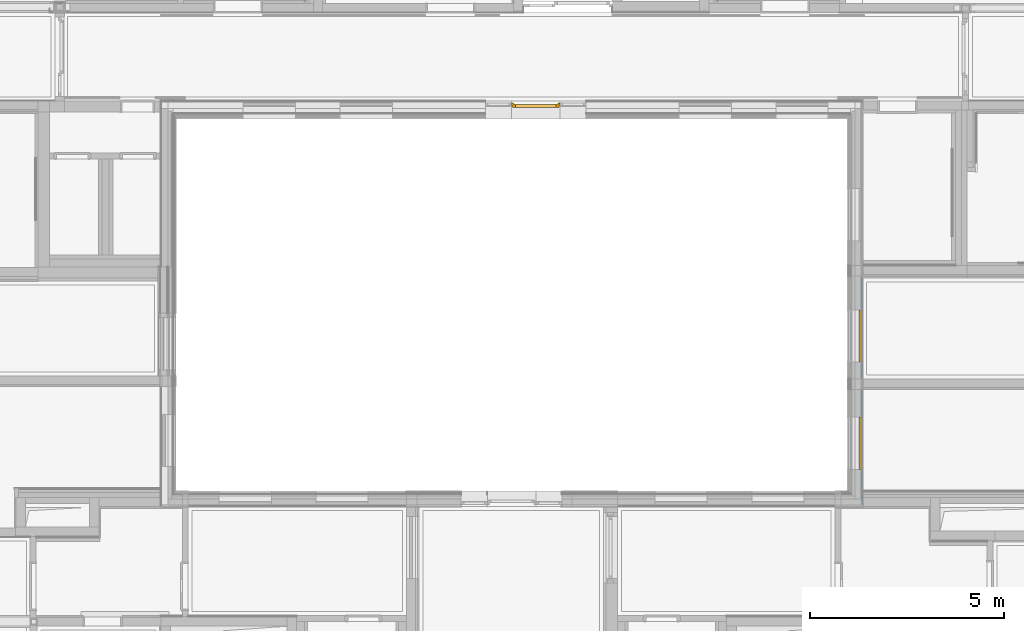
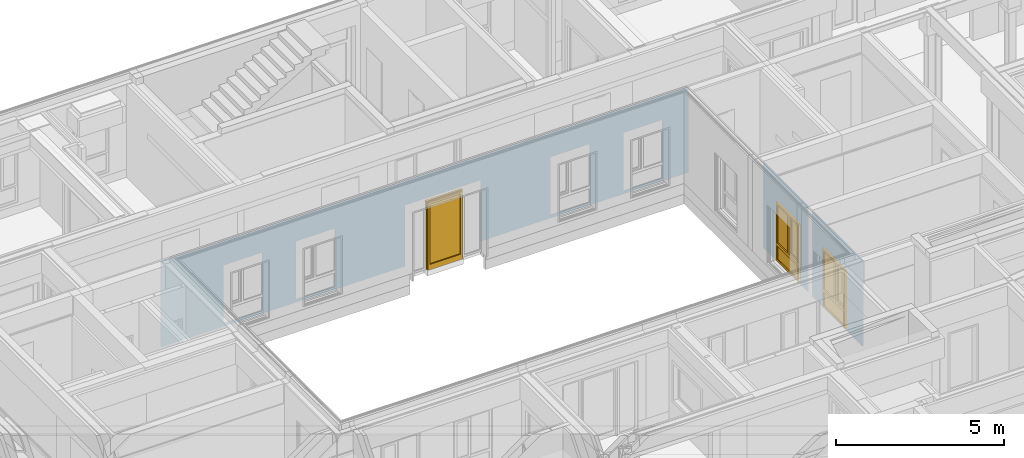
# One storey, part 105 of 207: 2 windows, 1 door, 9 openings, plus 3 elements that do not belong to this part.
"""IFC4 building model written with IfcOpenShell, lengths in metres."""

from ifc_helpers import new_model, entity, si_unit, converted_unit, derived_unit, frame, frame_2d, origin, origin_with_axes, place, context, subcontext, project, spatial, polyline, rectangle, outline, extrude, closed_shell, open_shell, surface_model, source, transform, mapped, material, type_object, element, fill, save


model = new_model("IFC4")

# Units and contexts
model_context = context("Model", 3, precision=1e-05, world=origin())
body_context = subcontext(model_context, "Body", "Model", "MODEL_VIEW")
ifc_project = project(units=[si_unit("LENGTHUNIT", "METRE"), si_unit("AREAUNIT", "SQUARE_METRE"), si_unit("VOLUMEUNIT", "CUBIC_METRE"), si_unit("MASSUNIT", "GRAM", prefix="KILO"), converted_unit("PLANEANGLEUNIT", "DEGREE", entity("IfcPlaneAngleMeasure", 0.0174532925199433), si_unit("PLANEANGLEUNIT", "RADIAN"), dimensions=[0, 0, 0, 0, 0, 0, 0]), derived_unit("THERMALTRANSMITTANCEUNIT", [(si_unit("POWERUNIT", "WATT"), 1), (si_unit("THERMODYNAMICTEMPERATUREUNIT", "KELVIN"), -1), (si_unit("LENGTHUNIT", "METRE"), -2)]), derived_unit("VOLUMETRICFLOWRATEUNIT", [(si_unit("LENGTHUNIT", "METRE"), 3), (converted_unit("TIMEUNIT", "hour", entity("IfcTimeMeasure", 3600.0), si_unit("TIMEUNIT", "SECOND"), dimensions=[0, 0, 1, 0, 0, 0, 0]), -1), (si_unit("LENGTHUNIT", "METRE"), -1)])], contexts=[model_context])

# Site, building, storey
site_placement = place(None, origin())
site = spatial("IfcSite", under=ifc_project, at=site_placement, Name="Psychiatrie Neubau Wunstorf", CompositionType="ELEMENT")
building_placement = place(site_placement, origin())
building = spatial("IfcBuilding", under=site, at=building_placement, Name="Neubau H2 Stationsgebäude", CompositionType="ELEMENT")
storey_placement = place(building_placement, frame((0.0, 0.0, -0.2)))
storey = spatial("IfcBuildingStorey", under=building, at=storey_placement, Name="H2 Ebene 0", CompositionType="ELEMENT", Elevation=-0.2)

# Wall, opening, window
ifc_material_1 = material(Name="WA-LB")
wall_1_placement = place(storey_placement, frame((62.061000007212, 10.1499996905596, 0.5), z_axis=(0.0, 0.0, 1.0), x_axis=(2.43546947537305e-15, 1.0, 0.0)))
wall_1 = element("IfcWall", 1, at=wall_1_placement, inside=storey, material=ifc_material_1, context=body_context, shape_type="SweptSolid", body=[
    extrude(rectangle(XDim=2.98749694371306, YDim=0.036, at=frame_2d((1.49374847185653, 0.018), x_axis=(1.0, 0.0))), origin_with_axes(), (0.0, 0.0, 1.0), 3.1),
])
opening_1_placement = place(wall_1_placement, frame((0.925, 0.0, 0.1), z_axis=(-3.15796771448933e-15, 1.0, 0.0), x_axis=(0.0, 0.0, 1.0)))
opening_1 = element("IfcOpeningElement", 2, at=opening_1_placement, cuts=wall_1, Name="Fensteröffnung", ObjectType="Opening", context=body_context, shape_type="SweptSolid", body=[
    extrude(outline(polyline([(2.12, 1.35), (2.12, 0.0), (0.0, 0.0), (0.0, 1.35), (2.12, 1.35)])), origin_with_axes(), (0.0, 0.0, 1.0), 0.036),
])
shared_shape_1 = source(origin_with_axes(), body_context, "Body", "SurfaceModel", [
    surface_model("IfcShellBasedSurfaceModel", [(0.0, 0.0, 2.12), (0.0699999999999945, 0.0, 2.12), (0.0699999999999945, 0.0, 0.0), (0.0, 0.0, 0.0), (0.0, 0.0699999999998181, 0.0), (0.0699999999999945, 0.0699999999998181, 0.0), (0.0699999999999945, 0.0699999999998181, 2.12), (0.0, 0.0699999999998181, 2.12)], [closed_shell([[[0, 1, 2, 3]], [[4, 5, 6, 7]], [[3, 4, 7, 0]], [[2, 5, 4, 3]], [[1, 6, 5, 2]], [[0, 7, 6, 1]]], orient=[[False], [False], [False], [False], [False], [False]])]),
    surface_model("IfcShellBasedSurfaceModel", [(1.28, 0.0, 2.12), (1.35, 0.0, 2.12), (1.35, 0.0, 0.0), (1.28, 0.0, 0.0), (1.28, 0.0699999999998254, 0.0), (1.35, 0.0699999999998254, 0.0), (1.35, 0.0699999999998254, 2.12), (1.28, 0.0699999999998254, 2.12)], [closed_shell([[[0, 1, 2, 3]], [[4, 5, 6, 7]], [[3, 4, 7, 0]], [[2, 5, 4, 3]], [[1, 6, 5, 2]], [[0, 7, 6, 1]]], orient=[[False], [False], [False], [False], [False], [False]])]),
    surface_model("IfcShellBasedSurfaceModel", [(0.0699999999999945, 0.0, 0.07), (1.28, 0.0, 0.07), (1.28, 0.0, 0.0), (0.0699999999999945, 0.0, 0.0), (0.0699999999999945, 0.0699999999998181, 0.0), (1.28, 0.0699999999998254, 0.0), (1.28, 0.0699999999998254, 0.07), (0.0699999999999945, 0.0699999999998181, 0.07)], [closed_shell([[[0, 1, 2, 3]], [[4, 5, 6, 7]], [[3, 4, 7, 0]], [[2, 5, 4, 3]], [[1, 6, 5, 2]], [[0, 7, 6, 1]]], orient=[[False], [False], [False], [False], [False], [False]])]),
    surface_model("IfcShellBasedSurfaceModel", [(0.0699999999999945, 0.0, 2.12), (1.28, 0.0, 2.12), (1.28, 0.0, 2.05), (0.0699999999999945, 0.0, 2.05), (0.0699999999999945, 0.0699999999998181, 2.05), (1.28, 0.0699999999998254, 2.05), (1.28, 0.0699999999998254, 2.12), (0.0699999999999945, 0.0699999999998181, 2.12)], [closed_shell([[[0, 1, 2, 3]], [[4, 5, 6, 7]], [[3, 4, 7, 0]], [[2, 5, 4, 3]], [[1, 6, 5, 2]], [[0, 7, 6, 1]]], orient=[[False], [False], [False], [False], [False], [False]])]),
    surface_model("IfcShellBasedSurfaceModel", [(0.0699999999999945, 0.0, 0.67), (1.28, 0.0, 0.67), (1.28, 0.0, 0.57), (0.0699999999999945, 0.0, 0.57), (0.0699999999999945, 0.0699999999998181, 0.57), (1.28, 0.0699999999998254, 0.57), (1.28, 0.0699999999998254, 0.67), (0.0699999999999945, 0.0699999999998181, 0.67)], [closed_shell([[[0, 1, 2, 3]], [[4, 5, 6, 7]], [[3, 4, 7, 0]], [[2, 5, 4, 3]], [[1, 6, 5, 2]], [[0, 7, 6, 1]]], orient=[[False], [False], [False], [False], [False], [False]])]),
    surface_model("IfcShellBasedSurfaceModel", [(0.0699999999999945, 0.0349999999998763, 0.07), (0.0699999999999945, 0.0349999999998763, 0.57), (1.28, 0.0349999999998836, 0.57), (1.28, 0.0349999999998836, 0.07)], [open_shell([[[0, 1, 2, 3]]], orient=[[False]])]),
    surface_model("IfcShellBasedSurfaceModel", [(0.569999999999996, 0.0, 2.05), (0.639999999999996, 0.0, 2.05), (0.639999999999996, 0.0, 0.67), (0.569999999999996, 0.0, 0.67), (0.569999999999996, 0.0699999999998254, 0.67), (0.639999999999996, 0.0699999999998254, 0.67), (0.639999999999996, 0.0699999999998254, 2.05), (0.569999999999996, 0.0699999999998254, 2.05)], [closed_shell([[[0, 1, 2, 3]], [[4, 5, 6, 7]], [[3, 4, 7, 0]], [[2, 5, 4, 3]], [[1, 6, 5, 2]], [[0, 7, 6, 1]]], orient=[[False], [False], [False], [False], [False], [False]])]),
    surface_model("IfcShellBasedSurfaceModel", [(0.0499999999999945, -0.0499999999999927, 2.07), (0.119999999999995, -0.0499999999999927, 2.07), (0.119999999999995, -0.0499999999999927, 0.65), (0.0499999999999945, -0.0499999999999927, 0.65), (0.0499999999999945, 0.0199999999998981, 0.65), (0.119999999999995, 0.0199999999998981, 0.65), (0.119999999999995, 0.0199999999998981, 2.07), (0.0499999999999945, 0.0199999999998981, 2.07)], [closed_shell([[[0, 1, 2, 3]], [[4, 5, 6, 7]], [[3, 4, 7, 0]], [[2, 5, 4, 3]], [[1, 6, 5, 2]], [[0, 7, 6, 1]]], orient=[[False], [False], [False], [False], [False], [False]])]),
    surface_model("IfcShellBasedSurfaceModel", [(0.519999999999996, -0.0499999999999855, 2.07), (0.589999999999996, -0.0499999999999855, 2.07), (0.589999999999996, -0.0499999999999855, 0.65), (0.519999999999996, -0.0499999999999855, 0.65), (0.519999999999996, 0.0199999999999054, 0.65), (0.589999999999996, 0.0199999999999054, 0.65), (0.589999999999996, 0.0199999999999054, 2.07), (0.519999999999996, 0.0199999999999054, 2.07)], [closed_shell([[[0, 1, 2, 3]], [[4, 5, 6, 7]], [[3, 4, 7, 0]], [[2, 5, 4, 3]], [[1, 6, 5, 2]], [[0, 7, 6, 1]]], orient=[[False], [False], [False], [False], [False], [False]])]),
    surface_model("IfcShellBasedSurfaceModel", [(0.119999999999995, -0.0499999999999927, 0.72), (0.519999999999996, -0.0499999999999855, 0.72), (0.519999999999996, -0.0499999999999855, 0.65), (0.119999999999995, -0.0499999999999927, 0.65), (0.119999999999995, 0.0199999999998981, 0.65), (0.519999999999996, 0.0199999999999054, 0.65), (0.519999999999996, 0.0199999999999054, 0.72), (0.119999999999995, 0.0199999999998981, 0.72)], [closed_shell([[[0, 1, 2, 3]], [[4, 5, 6, 7]], [[3, 4, 7, 0]], [[2, 5, 4, 3]], [[1, 6, 5, 2]], [[0, 7, 6, 1]]], orient=[[False], [False], [False], [False], [False], [False]])]),
    surface_model("IfcShellBasedSurfaceModel", [(0.119999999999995, -0.0499999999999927, 2.07), (0.519999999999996, -0.0499999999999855, 2.07), (0.519999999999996, -0.0499999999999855, 2.0), (0.119999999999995, -0.0499999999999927, 2.0), (0.119999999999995, 0.0199999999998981, 2.0), (0.519999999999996, 0.0199999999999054, 2.0), (0.519999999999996, 0.0199999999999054, 2.07), (0.119999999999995, 0.0199999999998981, 2.07)], [closed_shell([[[0, 1, 2, 3]], [[4, 5, 6, 7]], [[3, 4, 7, 0]], [[2, 5, 4, 3]], [[1, 6, 5, 2]], [[0, 7, 6, 1]]], orient=[[False], [False], [False], [False], [False], [False]])]),
    surface_model("IfcShellBasedSurfaceModel", [(0.639999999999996, 0.0349999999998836, 0.67), (0.639999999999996, 0.0349999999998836, 2.05), (1.28, 0.0349999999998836, 2.05), (1.28, 0.0349999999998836, 0.67)], [open_shell([[[0, 1, 2, 3]]], orient=[[False]])]),
    surface_model("IfcShellBasedSurfaceModel", [(0.119999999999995, -0.0150000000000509, 0.72), (0.119999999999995, -0.0150000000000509, 2.0), (0.519999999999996, -0.0150000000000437, 2.0), (0.519999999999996, -0.0150000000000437, 0.72)], [open_shell([[[0, 1, 2, 3]]], orient=[[False]])]),
])
window_1_placement = place(opening_1_placement, frame((0.0, 0.0, 0.03), z_axis=(1.0, 0.0, 0.0), x_axis=(0.0, 1.0, -6.11209647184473e-15)))
window_1 = element("IfcWindow", 3, at=window_1_placement, inside=storey, Name="Fenster", OverallHeight=2.12, OverallWidth=1.35, PartitioningType="USERDEFINED", PredefinedType="WINDOW", context=body_context, shape_type="MappedRepresentation", body=[
    mapped(shared_shape_1, transform((0.0, 0.0, 0.0), x_axis=(1.0, 0.0, 0.0), y_axis=(0.0, 1.0, 0.0), z_axis=(0.0, 0.0, 1.0), scale=1.0)),
])
fill(opening_1, window_1)

ifc_material_2 = material(Name="WA-LB")
wall_2_placement = place(storey_placement, frame((62.0610000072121, 13.4094966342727, 0.5), z_axis=(0.0, 0.0, 1.0), x_axis=(0.0, 1.0, 0.0)))
wall_2 = element("IfcWall", 4, at=wall_2_placement, inside=storey, material=ifc_material_2, context=body_context, shape_type="SweptSolid", body=[
    extrude(rectangle(XDim=2.65450336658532, YDim=0.036, at=frame_2d((1.32725168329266, 0.018), x_axis=(1.0, 0.0))), origin_with_axes(), (0.0, 0.0, 1.0), 3.1),
])
opening_2_placement = place(wall_2_placement, frame((0.434501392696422, 0.0, 0.1), z_axis=(0.0, 1.0, 0.0), x_axis=(0.0, 0.0, 1.0)))
opening_2 = element("IfcOpeningElement", 5, at=opening_2_placement, cuts=wall_2, Name="Fensteröffnung", ObjectType="Opening", context=body_context, shape_type="SweptSolid", body=[
    extrude(outline(polyline([(2.12, 1.35), (2.12, 0.0), (0.0, 0.0), (0.0, 1.35), (2.12, 1.35)])), origin_with_axes(), (0.0, 0.0, 1.0), 0.036),
])
shared_shape_2 = source(origin_with_axes(), body_context, "Body", "SurfaceModel", [
    surface_model("IfcShellBasedSurfaceModel", [(0.0, 0.0, 2.12), (0.0699999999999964, 0.0, 2.12), (0.0699999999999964, 0.0, 0.0), (0.0, 0.0, 0.0), (0.0, 0.0699999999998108, 0.0), (0.0699999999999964, 0.0699999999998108, 0.0), (0.0699999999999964, 0.0699999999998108, 2.12), (0.0, 0.0699999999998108, 2.12)], [closed_shell([[[0, 1, 2, 3]], [[4, 5, 6, 7]], [[3, 4, 7, 0]], [[2, 5, 4, 3]], [[1, 6, 5, 2]], [[0, 7, 6, 1]]], orient=[[False], [False], [False], [False], [False], [False]])]),
    surface_model("IfcShellBasedSurfaceModel", [(1.28, 0.0, 2.12), (1.35, 0.0, 2.12), (1.35, 0.0, 0.0), (1.28, 0.0, 0.0), (1.28, 0.0699999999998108, 0.0), (1.35, 0.0699999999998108, 0.0), (1.35, 0.0699999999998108, 2.12), (1.28, 0.0699999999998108, 2.12)], [closed_shell([[[0, 1, 2, 3]], [[4, 5, 6, 7]], [[3, 4, 7, 0]], [[2, 5, 4, 3]], [[1, 6, 5, 2]], [[0, 7, 6, 1]]], orient=[[False], [False], [False], [False], [False], [False]])]),
    surface_model("IfcShellBasedSurfaceModel", [(0.0699999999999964, 0.0, 0.07), (1.28, 0.0, 0.07), (1.28, 0.0, 0.0), (0.0699999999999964, 0.0, 0.0), (0.0699999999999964, 0.0699999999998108, 0.0), (1.28, 0.0699999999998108, 0.0), (1.28, 0.0699999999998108, 0.07), (0.0699999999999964, 0.0699999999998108, 0.07)], [closed_shell([[[0, 1, 2, 3]], [[4, 5, 6, 7]], [[3, 4, 7, 0]], [[2, 5, 4, 3]], [[1, 6, 5, 2]], [[0, 7, 6, 1]]], orient=[[False], [False], [False], [False], [False], [False]])]),
    surface_model("IfcShellBasedSurfaceModel", [(0.0699999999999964, 0.0, 2.12), (1.28, 0.0, 2.12), (1.28, 0.0, 2.05), (0.0699999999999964, 0.0, 2.05), (0.0699999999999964, 0.0699999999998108, 2.05), (1.28, 0.0699999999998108, 2.05), (1.28, 0.0699999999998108, 2.12), (0.0699999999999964, 0.0699999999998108, 2.12)], [closed_shell([[[0, 1, 2, 3]], [[4, 5, 6, 7]], [[3, 4, 7, 0]], [[2, 5, 4, 3]], [[1, 6, 5, 2]], [[0, 7, 6, 1]]], orient=[[False], [False], [False], [False], [False], [False]])]),
    surface_model("IfcShellBasedSurfaceModel", [(0.0699999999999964, 0.0, 0.67), (1.28, 0.0, 0.67), (1.28, 0.0, 0.57), (0.0699999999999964, 0.0, 0.57), (0.0699999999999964, 0.0699999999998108, 0.57), (1.28, 0.0699999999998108, 0.57), (1.28, 0.0699999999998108, 0.67), (0.0699999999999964, 0.0699999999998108, 0.67)], [closed_shell([[[0, 1, 2, 3]], [[4, 5, 6, 7]], [[3, 4, 7, 0]], [[2, 5, 4, 3]], [[1, 6, 5, 2]], [[0, 7, 6, 1]]], orient=[[False], [False], [False], [False], [False], [False]])]),
    surface_model("IfcShellBasedSurfaceModel", [(0.0699999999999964, 0.034999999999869, 0.07), (0.0699999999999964, 0.034999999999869, 0.57), (1.28, 0.034999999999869, 0.57), (1.28, 0.034999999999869, 0.07)], [open_shell([[[0, 1, 2, 3]]], orient=[[False]])]),
    surface_model("IfcShellBasedSurfaceModel", [(0.569999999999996, 0.0, 2.05), (0.639999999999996, 0.0, 2.05), (0.639999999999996, 0.0, 0.67), (0.569999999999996, 0.0, 0.67), (0.569999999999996, 0.0699999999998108, 0.67), (0.639999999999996, 0.0699999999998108, 0.67), (0.639999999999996, 0.0699999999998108, 2.05), (0.569999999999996, 0.0699999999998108, 2.05)], [closed_shell([[[0, 1, 2, 3]], [[4, 5, 6, 7]], [[3, 4, 7, 0]], [[2, 5, 4, 3]], [[1, 6, 5, 2]], [[0, 7, 6, 1]]], orient=[[False], [False], [False], [False], [False], [False]])]),
    surface_model("IfcShellBasedSurfaceModel", [(0.0499999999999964, -0.0499999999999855, 2.07), (0.119999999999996, -0.0499999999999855, 2.07), (0.119999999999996, -0.0499999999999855, 0.65), (0.0499999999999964, -0.0499999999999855, 0.65), (0.0499999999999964, 0.0199999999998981, 0.65), (0.119999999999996, 0.0199999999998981, 0.65), (0.119999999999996, 0.0199999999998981, 2.07), (0.0499999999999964, 0.0199999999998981, 2.07)], [closed_shell([[[0, 1, 2, 3]], [[4, 5, 6, 7]], [[3, 4, 7, 0]], [[2, 5, 4, 3]], [[1, 6, 5, 2]], [[0, 7, 6, 1]]], orient=[[False], [False], [False], [False], [False], [False]])]),
    surface_model("IfcShellBasedSurfaceModel", [(0.519999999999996, -0.0499999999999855, 2.07), (0.589999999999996, -0.0499999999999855, 2.07), (0.589999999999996, -0.0499999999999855, 0.65), (0.519999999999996, -0.0499999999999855, 0.65), (0.519999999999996, 0.0199999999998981, 0.65), (0.589999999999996, 0.0199999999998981, 0.65), (0.589999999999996, 0.0199999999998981, 2.07), (0.519999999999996, 0.0199999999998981, 2.07)], [closed_shell([[[0, 1, 2, 3]], [[4, 5, 6, 7]], [[3, 4, 7, 0]], [[2, 5, 4, 3]], [[1, 6, 5, 2]], [[0, 7, 6, 1]]], orient=[[False], [False], [False], [False], [False], [False]])]),
    surface_model("IfcShellBasedSurfaceModel", [(0.119999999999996, -0.0499999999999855, 0.72), (0.519999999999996, -0.0499999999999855, 0.72), (0.519999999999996, -0.0499999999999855, 0.65), (0.119999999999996, -0.0499999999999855, 0.65), (0.119999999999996, 0.0199999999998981, 0.65), (0.519999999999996, 0.0199999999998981, 0.65), (0.519999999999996, 0.0199999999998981, 0.72), (0.119999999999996, 0.0199999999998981, 0.72)], [closed_shell([[[0, 1, 2, 3]], [[4, 5, 6, 7]], [[3, 4, 7, 0]], [[2, 5, 4, 3]], [[1, 6, 5, 2]], [[0, 7, 6, 1]]], orient=[[False], [False], [False], [False], [False], [False]])]),
    surface_model("IfcShellBasedSurfaceModel", [(0.119999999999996, -0.0499999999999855, 2.07), (0.519999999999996, -0.0499999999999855, 2.07), (0.519999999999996, -0.0499999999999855, 2.0), (0.119999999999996, -0.0499999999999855, 2.0), (0.119999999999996, 0.0199999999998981, 2.0), (0.519999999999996, 0.0199999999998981, 2.0), (0.519999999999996, 0.0199999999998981, 2.07), (0.119999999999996, 0.0199999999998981, 2.07)], [closed_shell([[[0, 1, 2, 3]], [[4, 5, 6, 7]], [[3, 4, 7, 0]], [[2, 5, 4, 3]], [[1, 6, 5, 2]], [[0, 7, 6, 1]]], orient=[[False], [False], [False], [False], [False], [False]])]),
    surface_model("IfcShellBasedSurfaceModel", [(0.639999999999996, 0.034999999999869, 0.67), (0.639999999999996, 0.034999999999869, 2.05), (1.28, 0.034999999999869, 2.05), (1.28, 0.034999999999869, 0.67)], [open_shell([[[0, 1, 2, 3]]], orient=[[False]])]),
    surface_model("IfcShellBasedSurfaceModel", [(0.119999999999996, -0.0150000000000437, 0.72), (0.119999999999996, -0.0150000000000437, 2.0), (0.519999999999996, -0.0150000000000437, 2.0), (0.519999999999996, -0.0150000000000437, 0.72)], [open_shell([[[0, 1, 2, 3]]], orient=[[False]])]),
])
window_2_placement = place(opening_2_placement, frame((0.0, 0.0, 0.03), z_axis=(1.0, 0.0, 0.0), x_axis=(0.0, 1.0, 0.0)))
window_2 = element("IfcWindow", 6, at=window_2_placement, inside=storey, Name="Fenster", OverallHeight=2.12, OverallWidth=1.35, PartitioningType="USERDEFINED", PredefinedType="WINDOW", context=body_context, shape_type="MappedRepresentation", body=[
    mapped(shared_shape_2, transform((0.0, 0.0, 0.0), x_axis=(1.0, 0.0, 0.0), y_axis=(0.0, 1.0, 0.0), z_axis=(0.0, 0.0, 1.0), scale=1.0)),
])
fill(opening_2, window_2)

# Wall, openings, door
ifc_material_3 = material(Name="WA-LB")
wall_3_placement = place(storey_placement, frame((62.0610000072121, 20.5859980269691, 0.5), z_axis=(0.0, 0.0, 1.0), x_axis=(-1.0, 0.0, 0.0)))
wall_3 = element("IfcWall", 7, at=wall_3_placement, inside=storey, material=ifc_material_3, context=body_context, shape_type="SweptSolid", body=[
    extrude(rectangle(XDim=18.1220000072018, YDim=0.0359999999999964, at=frame_2d((9.06100000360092, 0.0179999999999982), x_axis=(1.0, 0.0))), origin_with_axes(), (0.0, 0.0, 1.0), 3.1),
])
opening_3_placement = place(wall_3_placement, frame((7.81338818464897, 0.0360000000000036, -0.3), z_axis=(0.0, -1.0, 0.0), x_axis=(0.0, 0.0, 1.0)))
element("IfcOpeningElement", 8, at=opening_3_placement, cuts=wall_3, Name="Fensteröffnung", ObjectType="Opening", context=body_context, shape_type="SweptSolid", body=[
    extrude(outline(polyline([(2.52, 0.675), (2.52, 0.0), (0.0, 0.0), (0.0, 0.675), (2.52, 0.675)])), origin_with_axes(), (0.0, 0.0, 1.0), 0.0360000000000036),
])
opening_4_placement = place(wall_3_placement, frame((15.9883882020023, 0.0359999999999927, 0.1), z_axis=(0.0, -1.0, 0.0), x_axis=(0.0, 0.0, 1.0)))
element("IfcOpeningElement", 9, at=opening_4_placement, cuts=wall_3, Name="Fensteröffnung", ObjectType="Opening", context=body_context, shape_type="SweptSolid", body=[
    extrude(outline(polyline([(2.12, 1.35), (2.12, 0.0), (0.0, 0.0), (0.0, 1.35), (2.12, 1.35)])), origin_with_axes(), (0.0, 0.0, 1.0), 0.0360000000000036),
])
opening_5_placement = place(wall_3_placement, frame((13.488388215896, 0.036, 0.1), z_axis=(0.0, -1.0, 0.0), x_axis=(0.0, 0.0, 1.0)))
element("IfcOpeningElement", 10, at=opening_5_placement, cuts=wall_3, Name="Fensteröffnung", ObjectType="Opening", context=body_context, shape_type="SweptSolid", body=[
    extrude(outline(polyline([(2.12, 1.35), (2.12, 0.0), (0.0, 0.0), (0.0, 1.35), (2.12, 1.35)])), origin_with_axes(), (0.0, 0.0, 1.0), 0.036),
])
opening_6_placement = place(wall_3_placement, frame((4.738388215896, 0.0360000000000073, 0.1), z_axis=(0.0, -1.0, 0.0), x_axis=(0.0, 0.0, 1.0)))
element("IfcOpeningElement", 11, at=opening_6_placement, cuts=wall_3, Name="Fensteröffnung", ObjectType="Opening", context=body_context, shape_type="SweptSolid", body=[
    extrude(outline(polyline([(2.12, 1.35), (2.12, 0.0), (0.0, 0.0), (0.0, 1.35), (2.12, 1.35)])), origin_with_axes(), (0.0, 0.0, 1.0), 0.0360000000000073),
])
opening_7_placement = place(wall_3_placement, frame((2.238388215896, 0.0360000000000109, 0.1), z_axis=(0.0, -1.0, 0.0), x_axis=(0.0, 0.0, 1.0)))
element("IfcOpeningElement", 12, at=opening_7_placement, cuts=wall_3, Name="Fensteröffnung", ObjectType="Opening", context=body_context, shape_type="SweptSolid", body=[
    extrude(outline(polyline([(2.12, 1.35), (2.12, 0.0), (0.0, 0.0), (0.0, 1.35), (2.12, 1.35)])), origin_with_axes(), (0.0, 0.0, 1.0), 0.0360000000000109),
])
opening_8_placement = place(wall_3_placement, frame((9.063388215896, 0.0360000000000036, -0.5), z_axis=(0.0, -1.0, 0.0), x_axis=(0.0, 0.0, 1.0)))
opening_8 = element("IfcOpeningElement", 13, at=opening_8_placement, cuts=wall_3, Name="Türöffnung", ObjectType="Opening", context=body_context, shape_type="SweptSolid", body=[
    extrude(outline(polyline([(2.72, 1.25), (2.72, 0.0), (0.0, 0.0), (0.0, 1.25), (2.72, 1.25)])), origin_with_axes(), (0.0, 0.0, 1.0), 0.0360000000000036),
])
opening_9_placement = place(wall_3_placement, frame((9.738388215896, 0.0360000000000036, -0.3), z_axis=(0.0, -1.0, 0.0), x_axis=(0.0, 0.0, 1.0)))
element("IfcOpeningElement", 14, at=opening_9_placement, cuts=wall_3, Name="Fensteröffnung", ObjectType="Opening", context=body_context, shape_type="SweptSolid", body=[
    extrude(outline(polyline([(2.52, 0.675), (2.52, 0.0), (0.0, 0.0), (0.0, 0.675), (2.52, 0.675)])), origin_with_axes(), (0.0, 0.0, 1.0), 0.0360000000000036),
])
ifc_material_4 = material(Name="TA-1F-AG-D-O")
door_type = type_object("IfcDoorType", Name="SMT", OperationType="SINGLE_SWING_RIGHT", ParameterTakesPrecedence=False, PredefinedType="DOOR")
shared_shape_3 = source(origin_with_axes(), body_context, "Body", "SurfaceModel", [
    surface_model("IfcShellBasedSurfaceModel", [(1.25, 0.0699999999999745, 2.67), (1.2, 0.0699999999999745, 2.67), (1.2, 0.0699999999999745, 0.2), (1.25, 0.0699999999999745, 0.2), (1.25, 0.0, 0.2), (1.2, 0.0, 0.2), (1.2, 0.0, 2.67), (1.25, 0.0, 2.67)], [closed_shell([[[0, 1, 2, 3]], [[4, 5, 6, 7]], [[3, 4, 7, 0]], [[2, 5, 4, 3]], [[1, 6, 5, 2]], [[0, 7, 6, 1]]], orient=[[False], [False], [False], [False], [False], [False]])]),
    surface_model("IfcShellBasedSurfaceModel", [(0.05, 0.0699999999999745, 2.67), (0.0, 0.0699999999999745, 2.67), (0.0, 0.0699999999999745, 0.2), (0.05, 0.0699999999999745, 0.2), (0.05, 0.0, 0.2), (0.0, 0.0, 0.2), (0.0, 0.0, 2.67), (0.05, 0.0, 2.67)], [closed_shell([[[0, 1, 2, 3]], [[4, 5, 6, 7]], [[3, 4, 7, 0]], [[2, 5, 4, 3]], [[1, 6, 5, 2]], [[0, 7, 6, 1]]], orient=[[False], [False], [False], [False], [False], [False]])]),
    surface_model("IfcShellBasedSurfaceModel", [(1.2, 0.0699999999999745, 2.67), (0.05, 0.0699999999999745, 2.67), (0.05, 0.0699999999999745, 2.62), (1.2, 0.0699999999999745, 2.62), (1.2, 0.0, 2.62), (0.05, 0.0, 2.62), (0.05, 0.0, 2.67), (1.2, 0.0, 2.67)], [closed_shell([[[0, 1, 2, 3]], [[4, 5, 6, 7]], [[3, 4, 7, 0]], [[2, 5, 4, 3]], [[1, 6, 5, 2]], [[0, 7, 6, 1]]], orient=[[False], [False], [False], [False], [False], [False]])]),
    surface_model("IfcShellBasedSurfaceModel", [(1.22, 0.119999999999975, 2.64), (1.15, 0.119999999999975, 2.64), (1.15, 0.119999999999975, 0.18), (1.22, 0.119999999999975, 0.18), (1.22, 0.0499999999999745, 0.18), (1.15, 0.0499999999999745, 0.18), (1.15, 0.0499999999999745, 2.64), (1.22, 0.0499999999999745, 2.64)], [closed_shell([[[0, 1, 2, 3]], [[4, 5, 6, 7]], [[3, 4, 7, 0]], [[2, 5, 4, 3]], [[1, 6, 5, 2]], [[0, 7, 6, 1]]], orient=[[False], [False], [False], [False], [False], [False]])]),
    surface_model("IfcShellBasedSurfaceModel", [(0.1, 0.119999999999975, 2.64), (0.03, 0.119999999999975, 2.64), (0.03, 0.119999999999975, 0.18), (0.1, 0.119999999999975, 0.18), (0.1, 0.0499999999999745, 0.18), (0.03, 0.0499999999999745, 0.18), (0.03, 0.0499999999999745, 2.64), (0.1, 0.0499999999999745, 2.64)], [closed_shell([[[0, 1, 2, 3]], [[4, 5, 6, 7]], [[3, 4, 7, 0]], [[2, 5, 4, 3]], [[1, 6, 5, 2]], [[0, 7, 6, 1]]], orient=[[False], [False], [False], [False], [False], [False]])]),
    surface_model("IfcShellBasedSurfaceModel", [(1.15, 0.119999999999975, 0.38), (0.1, 0.119999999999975, 0.38), (0.1, 0.119999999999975, 0.18), (1.15, 0.119999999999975, 0.18), (1.15, 0.0499999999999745, 0.18), (0.1, 0.0499999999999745, 0.18), (0.1, 0.0499999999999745, 0.38), (1.15, 0.0499999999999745, 0.38)], [closed_shell([[[0, 1, 2, 3]], [[4, 5, 6, 7]], [[3, 4, 7, 0]], [[2, 5, 4, 3]], [[1, 6, 5, 2]], [[0, 7, 6, 1]]], orient=[[False], [False], [False], [False], [False], [False]])]),
    surface_model("IfcShellBasedSurfaceModel", [(1.15, 0.119999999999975, 2.64), (0.1, 0.119999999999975, 2.64), (0.1, 0.119999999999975, 2.57), (1.15, 0.119999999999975, 2.57), (1.15, 0.0499999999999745, 2.57), (0.1, 0.0499999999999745, 2.57), (0.1, 0.0499999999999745, 2.64), (1.15, 0.0499999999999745, 2.64)], [closed_shell([[[0, 1, 2, 3]], [[4, 5, 6, 7]], [[3, 4, 7, 0]], [[2, 5, 4, 3]], [[1, 6, 5, 2]], [[0, 7, 6, 1]]], orient=[[False], [False], [False], [False], [False], [False]])]),
    surface_model("IfcShellBasedSurfaceModel", [(1.15, 0.0849999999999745, 0.38), (1.15, 0.0849999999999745, 2.57), (0.1, 0.0849999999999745, 2.57), (0.1, 0.0849999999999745, 0.38)], [open_shell([[[0, 1, 2, 3]]], orient=[[False]])]),
])
door_placement = place(opening_8_placement, frame((0.0, 1.25, -0.0140000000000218), z_axis=(1.0, 0.0, 0.0), x_axis=(0.0, -1.0, 0.0)))
door = element("IfcDoor", 15, at=door_placement, inside=storey, type_object=door_type, material=ifc_material_4, Name="SMT", OverallHeight=2.67, OverallWidth=1.25, context=body_context, shape_type="MappedRepresentation", body=[
    mapped(shared_shape_3, transform((0.0, 0.0, 0.0), x_axis=(1.0, 0.0, 0.0), y_axis=(0.0, 1.0, 0.0), z_axis=(0.0, 0.0, 1.0), scale=1.0)),
])
fill(opening_8, door)

save(model, "model.ifc")
